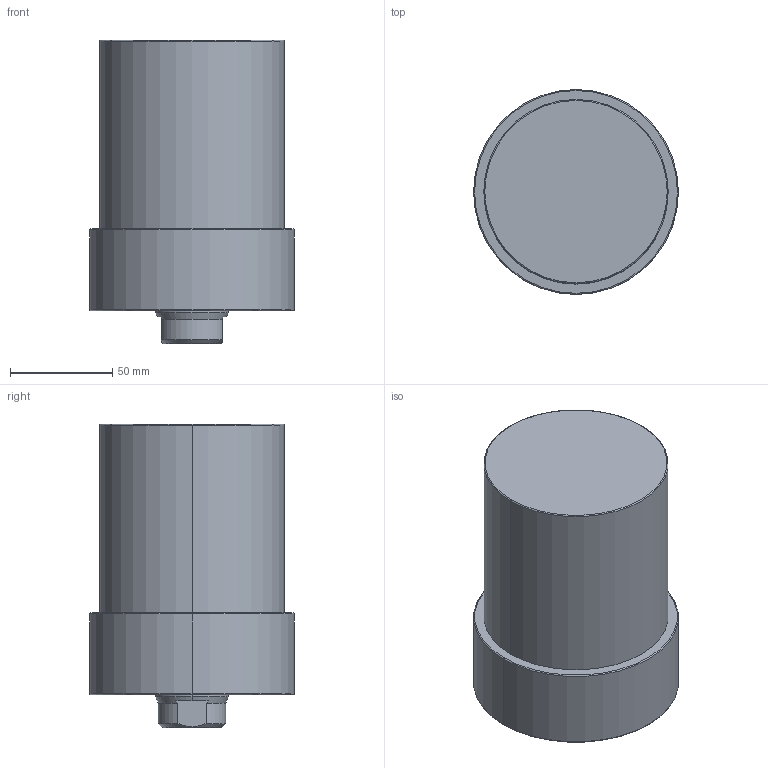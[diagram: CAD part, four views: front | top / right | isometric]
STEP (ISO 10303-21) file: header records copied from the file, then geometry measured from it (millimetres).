
FILE_DESCRIPTION (( 'STEP AP203' ), '1' );
FILE_NAME ('CLLU-090CA-070.STEP', '2020-01-11T00:40:48', ( '' ), ( '' ), 'SwSTEP 2.0', 'SolidWorks 2015', '' );
FILE_SCHEMA (( 'CONFIG_CONTROL_DESIGN' ));
Length unit declared in the file: millimetre
Products named in the file (1): CLLU-090CA-070
Bounding box: 100 x 100 x 148 mm (x, y, z)
Volume: 894987.5 mm3; surface area: 60861.9 mm2
Topology: 1 solids, 1 shells, 62 faces, 140 edges, 79 vertices
Faces by surface type: cone 24, cylinder 22, plane 10, torus 6
Entity records: 1767 total; most frequent: DIRECTION 320, CARTESIAN_POINT 316, ORIENTED_EDGE 260, AXIS2_PLACEMENT_3D 135, EDGE_CURVE 130, VERTEX_POINT 79, CIRCLE 72, EDGE_LOOP 71
